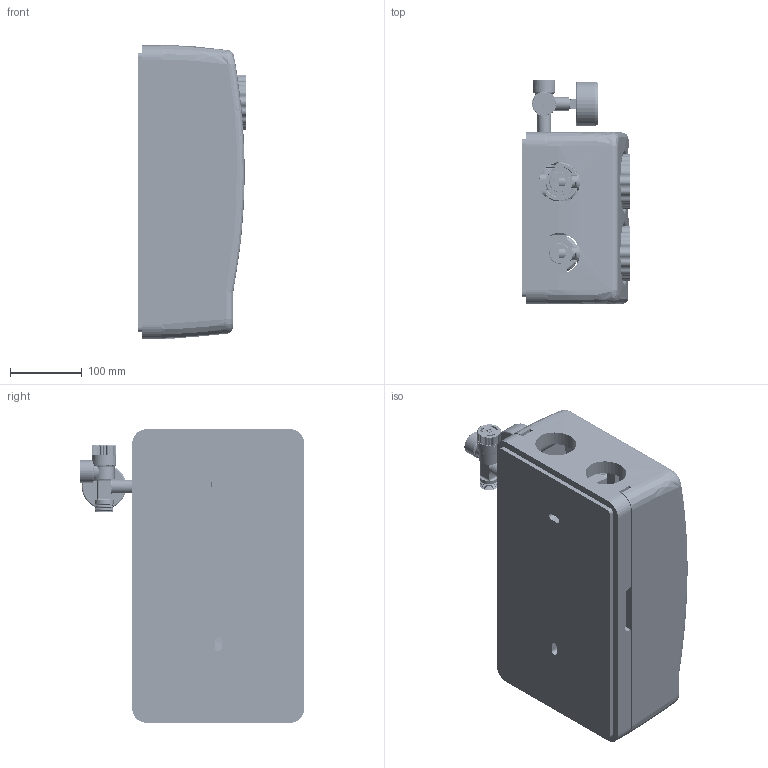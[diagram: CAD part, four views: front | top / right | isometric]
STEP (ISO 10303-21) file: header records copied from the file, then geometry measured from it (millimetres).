
FILE_DESCRIPTION (( 'STEP AP214' ), '1' );
FILE_NAME ('PrimoSol 130-4.STEP', '2024-10-01T10:22:59', ( '' ), ( '' ), 'SwSTEP 2.0', 'SolidWorks 2024', '' );
FILE_SCHEMA (( 'AUTOMOTIVE_DESIGN' ));
Length unit declared in the file: millimetre
Products named in the file (58): ZAHNSCHEIBE_906797 8400; Mitnahme-Blech_05 00 410240; Bedruckung02; Basamento-pompa-UPM3-15-70-ghisa; STEG_7; HANDRAD_05 00 410222; 05 00 41 87_Bi-Th NG63 0-120_X_B0C blau RSK; STEG_13; 0_0_0_5; Część3^Part7_0; STEG_3; BLECHLASCHE; Part5; 0_0_0; 0_0_0_3; Base-pompa-Grundfos-UPM3-AUTO-Afriso-PL; termom; Bedruckung; STEG_10; STEG_2; 43x33x2; Part8; Part6; STEGE; Afriso Logo; Insulation_part1; DECKGLAS; Part3; Part4; Part7_0; Part10; STEG; Tauchh_X_FClse_05 00 410223; STEG_9; STEG_12; Part2; Part7_2; ZIFFERBLATT; STEG_4; GRUNDFOS130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
Assembly tree (66 placements, depth 7):
  PrimoSol 130-4
    Part1
    Part2
    Part3  x2
    Part4  x2
    Part5  x2
    Part6
      Part6_1
      HANDRAD_05 00 410222
        HANDRAD_05 00 410222
        STEGE
        0_0_0
          0_0_0_2
            STEG
            STEG_2
            STEG_3
            0_0_0_3
              STEG_4
              STEG_5
          0_0_0_4
            STEG_6
            STEG_7
            STEG_8
            STEG_9
          0_0_0_5
            STEG_10
            STEG_11
            STEG_12
            STEG_13
        Tauchh_X_FClse_05 00 410223
        ZAHNSCHEIBE_906797 8400
        Mitnahme-Blech_05 00 410240
          BLECHLASCHE
      05 00 41 87_Bi-Th NG63 0-120_X_B0C blau RSK
        zifferblatt_Baugruppe_0
          DECKGLAS
          ZIFFERBLATT
          ZEIGER
          Bedruckung02
          Ring-blau
          Bedruckung
            Bedruckung
            Afriso Logo
    Part7_0
      Part7
      Part7_1
      Part7_2  x2
      Część3^Part7_0  x2
    GRUNDFOS130
      Basamento-pompa-UPM3-15-70-ghisa
      Base-pompa-Grundfos-UPM3-AUTO-Afriso-PL
    Part8
    Part7_1
    HANDRAD_05 00 410222
      HANDRAD_05 00 410222
      STEGE
      0_0_0
        0_0_0_2
          STEG
          STEG_2
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Bounding box: 151.2 x 313.3 x 410.36 mm (x, y, z)
Volume: 4831374.4 mm3; surface area: 1204763.1 mm2
Topology: 161 solids, 168 shells, 8883 faces, 22749 edges, 14292 vertices
Faces by surface type: plane 2812, cylinder 2409, bspline 2253, torus 674, cone 593, sphere 142
Entity records: 434235 total; most frequent: CARTESIAN_POINT 262416, ORIENTED_EDGE 37923, DIRECTION 24791, EDGE_CURVE 18964, VERTEX_POINT 11869, AXIS2_PLACEMENT_3D 9201, B_SPLINE_CURVE_WITH_KNOTS 7982, EDGE_LOOP 7712
